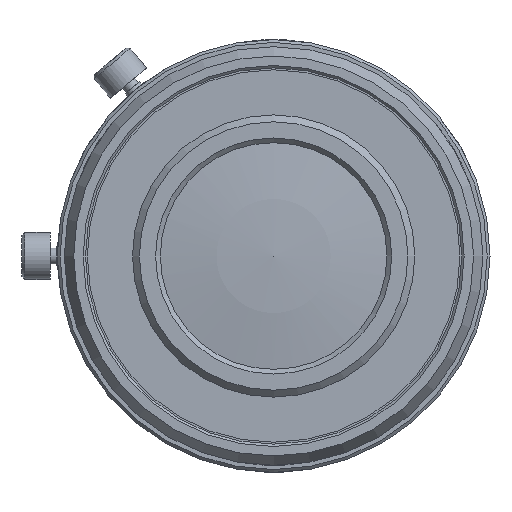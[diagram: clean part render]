
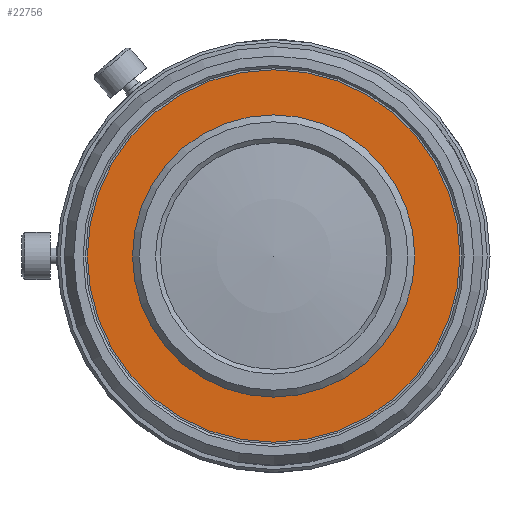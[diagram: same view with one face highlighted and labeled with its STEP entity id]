
A CAD part, front view. The second image highlights one B-rep face of the part: STEP entity #22756.
In plain terms, the highlighted planar face has unit normal (0, -1, 0).
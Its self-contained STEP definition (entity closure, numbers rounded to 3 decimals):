
#2554 = CYLINDRICAL_SURFACE('',#2555,19.8);
#2555 = AXIS2_PLACEMENT_3D('',#2556,#2557,#2558);
#2556 = CARTESIAN_POINT('',(0.,-56.137,0.));
#2557 = DIRECTION('',(0.,-1.,0.));
#2558 = DIRECTION('',(0.,0.,-1.));
#22702 = EDGE_CURVE('',#22703,#22703,#22705,.T.);
#22703 = VERTEX_POINT('',#22704);
#22704 = CARTESIAN_POINT('',(0.,-65.016,-19.8));
#22705 = SURFACE_CURVE('',#22706,(#22711,#22718),.PCURVE_S1.);
#22706 = CIRCLE('',#22707,19.8);
#22707 = AXIS2_PLACEMENT_3D('',#22708,#22709,#22710);
#22708 = CARTESIAN_POINT('',(0.,-65.016,0.));
#22709 = DIRECTION('',(0.,-1.,0.));
#22710 = DIRECTION('',(0.,0.,-1.));
#22711 = PCURVE('',#2554,#22712);
#22712 = DEFINITIONAL_REPRESENTATION('',(#22713),#22717);
#22713 = LINE('',#22714,#22715);
#22714 = CARTESIAN_POINT('',(0.,8.88));
#22715 = VECTOR('',#22716,1.);
#22716 = DIRECTION('',(1.,0.));
#22717 = ( GEOMETRIC_REPRESENTATION_CONTEXT(2) 
PARAMETRIC_REPRESENTATION_CONTEXT() REPRESENTATION_CONTEXT('',''
  ) );
#22718 = PCURVE('',#22719,#22724);
#22719 = PLANE('',#22720);
#22720 = AXIS2_PLACEMENT_3D('',#22721,#22722,#22723);
#22721 = CARTESIAN_POINT('',(0.,-65.016,15.));
#22722 = DIRECTION('',(0.,1.,0.));
#22723 = DIRECTION('',(0.,-0.,1.));
#22724 = DEFINITIONAL_REPRESENTATION('',(#22725),#22733);
#22725 = ( BOUNDED_CURVE() B_SPLINE_CURVE(2,(#22726,#22727,#22728,#22729
    ,#22730,#22731,#22732),.UNSPECIFIED.,.T.,.F.) 
B_SPLINE_CURVE_WITH_KNOTS((1,2,2,2,2,1),(-2.094,0.,
    2.094,4.189,6.283,8.378),
.UNSPECIFIED.) CURVE() GEOMETRIC_REPRESENTATION_ITEM() 
RATIONAL_B_SPLINE_CURVE((1.,0.5,1.,0.5,1.,0.5,1.)) REPRESENTATION_ITEM(
  '') );
#22726 = CARTESIAN_POINT('',(-34.8,0.));
#22727 = CARTESIAN_POINT('',(-34.8,34.295));
#22728 = CARTESIAN_POINT('',(-5.1,17.147));
#22729 = CARTESIAN_POINT('',(24.6,0.));
#22730 = CARTESIAN_POINT('',(-5.1,-17.147));
#22731 = CARTESIAN_POINT('',(-34.8,-34.295));
#22732 = CARTESIAN_POINT('',(-34.8,0.));
#22733 = ( GEOMETRIC_REPRESENTATION_CONTEXT(2) 
PARAMETRIC_REPRESENTATION_CONTEXT() REPRESENTATION_CONTEXT('',''
  ) );
#22756 = ADVANCED_FACE('',(#22757,#22792),#22719,.F.);
#22757 = FACE_BOUND('',#22758,.T.);
#22758 = EDGE_LOOP('',(#22759));
#22759 = ORIENTED_EDGE('',*,*,#22760,.F.);
#22760 = EDGE_CURVE('',#22761,#22761,#22763,.T.);
#22761 = VERTEX_POINT('',#22762);
#22762 = CARTESIAN_POINT('',(0.,-65.016,-15.));
#22763 = SURFACE_CURVE('',#22764,(#22769,#22780),.PCURVE_S1.);
#22764 = CIRCLE('',#22765,15.);
#22765 = AXIS2_PLACEMENT_3D('',#22766,#22767,#22768);
#22766 = CARTESIAN_POINT('',(0.,-65.016,0.));
#22767 = DIRECTION('',(0.,-1.,0.));
#22768 = DIRECTION('',(0.,0.,-1.));
#22769 = PCURVE('',#22719,#22770);
#22770 = DEFINITIONAL_REPRESENTATION('',(#22771),#22779);
#22771 = ( BOUNDED_CURVE() B_SPLINE_CURVE(2,(#22772,#22773,#22774,#22775
    ,#22776,#22777,#22778),.UNSPECIFIED.,.T.,.F.) 
B_SPLINE_CURVE_WITH_KNOTS((1,2,2,2,2,1),(-2.094,0.,
    2.094,4.189,6.283,8.378),
.UNSPECIFIED.) CURVE() GEOMETRIC_REPRESENTATION_ITEM() 
RATIONAL_B_SPLINE_CURVE((1.,0.5,1.,0.5,1.,0.5,1.)) REPRESENTATION_ITEM(
  '') );
#22772 = CARTESIAN_POINT('',(-30.,0.));
#22773 = CARTESIAN_POINT('',(-30.,25.981));
#22774 = CARTESIAN_POINT('',(-7.5,12.99));
#22775 = CARTESIAN_POINT('',(15.,0.));
#22776 = CARTESIAN_POINT('',(-7.5,-12.99));
#22777 = CARTESIAN_POINT('',(-30.,-25.981));
#22778 = CARTESIAN_POINT('',(-30.,0.));
#22779 = ( GEOMETRIC_REPRESENTATION_CONTEXT(2) 
PARAMETRIC_REPRESENTATION_CONTEXT() REPRESENTATION_CONTEXT('',''
  ) );
#22780 = PCURVE('',#22781,#22786);
#22781 = CONICAL_SURFACE('',#22782,15.,0.785);
#22782 = AXIS2_PLACEMENT_3D('',#22783,#22784,#22785);
#22783 = CARTESIAN_POINT('',(0.,-65.016,0.));
#22784 = DIRECTION('',(0.,1.,0.));
#22785 = DIRECTION('',(0.,-0.,1.));
#22786 = DEFINITIONAL_REPRESENTATION('',(#22787),#22791);
#22787 = LINE('',#22788,#22789);
#22788 = CARTESIAN_POINT('',(9.425,0.));
#22789 = VECTOR('',#22790,1.);
#22790 = DIRECTION('',(-1.,0.));
#22791 = ( GEOMETRIC_REPRESENTATION_CONTEXT(2) 
PARAMETRIC_REPRESENTATION_CONTEXT() REPRESENTATION_CONTEXT('',''
  ) );
#22792 = FACE_BOUND('',#22793,.T.);
#22793 = EDGE_LOOP('',(#22794));
#22794 = ORIENTED_EDGE('',*,*,#22702,.T.);
